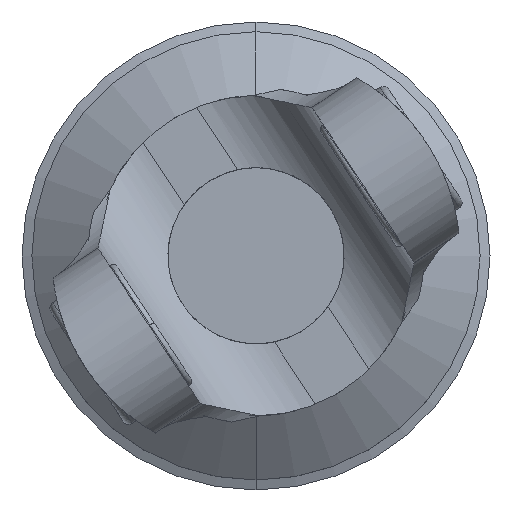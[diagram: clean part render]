
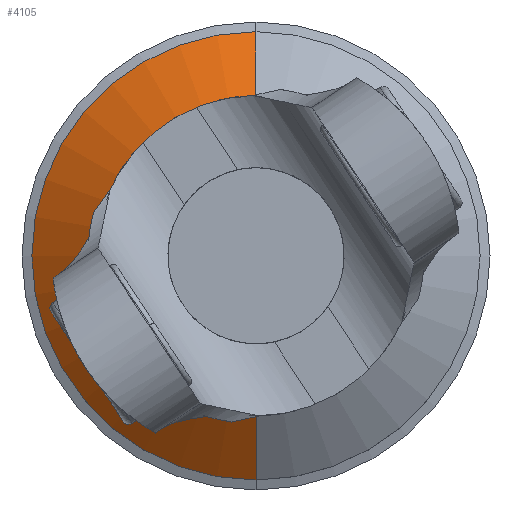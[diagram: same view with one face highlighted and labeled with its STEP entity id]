
A CAD part, top view. The second image highlights one B-rep face of the part: STEP entity #4105.
In plain terms, the highlighted free-form (B-spline) face has degree [1, 3] with [2, 4] control points.
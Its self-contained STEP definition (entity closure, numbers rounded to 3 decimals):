
#129 = VERTEX_POINT ( 'NONE', #2670 ) ;
#162 = CARTESIAN_POINT ( 'NONE',  ( 0., 10., -1196.373 ) ) ;
#194 = CARTESIAN_POINT ( 'NONE',  ( 0., 12., -1197.914 ) ) ;
#432 = CARTESIAN_POINT ( 'NONE',  ( 0., -10., -1196.373 ) ) ;
#969 = CARTESIAN_POINT ( 'NONE',  ( -20., 10., -1196.373 ) ) ;
#979 = CARTESIAN_POINT ( 'NONE',  ( 0., 0., -1196.373 ) ) ;
#1240 = VERTEX_POINT ( 'NONE', #162 ) ;
#1332 = EDGE_LOOP ( 'NONE', ( #5234, #5256, #4532, #3642 ) ) ;
#1478 = CIRCLE ( 'NONE', #6079, 14. ) ;
#1575 = VECTOR ( 'NONE', #3757, 1000. ) ;
#1948 = VERTEX_POINT ( 'NONE', #6029 ) ;
#1969 = CARTESIAN_POINT ( 'NONE',  ( 0., 0., -1199.456 ) ) ;
#2110 = VERTEX_POINT ( 'NONE', #5455 ) ;
#2260 = DIRECTION ( 'NONE',  ( 0., -1., 0. ) ) ;
#2521 = CARTESIAN_POINT ( 'NONE',  ( 0., 14., -1199.456 ) ) ;
#2670 = CARTESIAN_POINT ( 'NONE',  ( 0., -14., -1199.456 ) ) ;
#2974 = AXIS2_PLACEMENT_3D ( 'NONE', #979, #6089, #4542 ) ;
#2991 = CARTESIAN_POINT ( 'NONE',  ( 0., -14., -1199.456 ) ) ;
#3527 = CARTESIAN_POINT ( 'NONE',  ( -28., 14., -1199.456 ) ) ;
#3642 = ORIENTED_EDGE ( 'NONE', *, *, #5666, .F. ) ;
#3737 = CARTESIAN_POINT ( 'NONE',  ( 0., -12., -1197.914 ) ) ;
#3757 = DIRECTION ( 'NONE',  ( 0., -0.792, 0.61 ) ) ;
#3818 = VECTOR ( 'NONE', #5787, 1000. ) ;
#4105 = ADVANCED_FACE ( 'NONE', ( #6080 ), #4750, .T. ) ;
#4140 = EDGE_CURVE ( 'NONE', #1948, #1240, #4175, .T. ) ;
#4175 = LINE ( 'NONE', #194, #1575 ) ;
#4532 = ORIENTED_EDGE ( 'NONE', *, *, #4990, .T. ) ;
#4542 = DIRECTION ( 'NONE',  ( 0., -1., 0. ) ) ;
#4567 = CARTESIAN_POINT ( 'NONE',  ( 0., 10., -1196.373 ) ) ;
#4750 =( BOUNDED_SURFACE ( )  B_SPLINE_SURFACE ( 1, 3, ( 
 ( #2991, #5549, #3527, #2521 ),
 ( #432, #5578, #969, #4567 ) ),
 .UNSPECIFIED., .F., .F., .F. ) 
 B_SPLINE_SURFACE_WITH_KNOTS ( ( 2, 2 ),
 ( 4, 4 ),
 ( 0., 1. ),
 ( 0., 1. ),
 .UNSPECIFIED. ) 
 GEOMETRIC_REPRESENTATION_ITEM ( )  RATIONAL_B_SPLINE_SURFACE ( (
 ( 1., 0.333, 0.333, 1.),
 ( 1., 0.333, 0.333, 1.) ) ) 
 REPRESENTATION_ITEM ( '' )  SURFACE ( )  );
#4990 = EDGE_CURVE ( 'NONE', #129, #2110, #6283, .T. ) ;
#5234 = ORIENTED_EDGE ( 'NONE', *, *, #4140, .F. ) ;
#5256 = ORIENTED_EDGE ( 'NONE', *, *, #5807, .T. ) ;
#5308 = DIRECTION ( 'NONE',  ( 0., 0., 1. ) ) ;
#5455 = CARTESIAN_POINT ( 'NONE',  ( 0., -10., -1196.373 ) ) ;
#5549 = CARTESIAN_POINT ( 'NONE',  ( -28., -14., -1199.456 ) ) ;
#5578 = CARTESIAN_POINT ( 'NONE',  ( -20., -10., -1196.373 ) ) ;
#5666 = EDGE_CURVE ( 'NONE', #1240, #2110, #5744, .T. ) ;
#5744 = CIRCLE ( 'NONE', #2974, 10. ) ;
#5787 = DIRECTION ( 'NONE',  ( 0., 0.792, 0.61 ) ) ;
#5807 = EDGE_CURVE ( 'NONE', #1948, #129, #1478, .T. ) ;
#6029 = CARTESIAN_POINT ( 'NONE',  ( 0., 14., -1199.456 ) ) ;
#6079 = AXIS2_PLACEMENT_3D ( 'NONE', #1969, #5308, #2260 ) ;
#6080 = FACE_OUTER_BOUND ( 'NONE', #1332, .T. ) ;
#6089 = DIRECTION ( 'NONE',  ( 0., 0., 1. ) ) ;
#6283 = LINE ( 'NONE', #3737, #3818 ) ;
